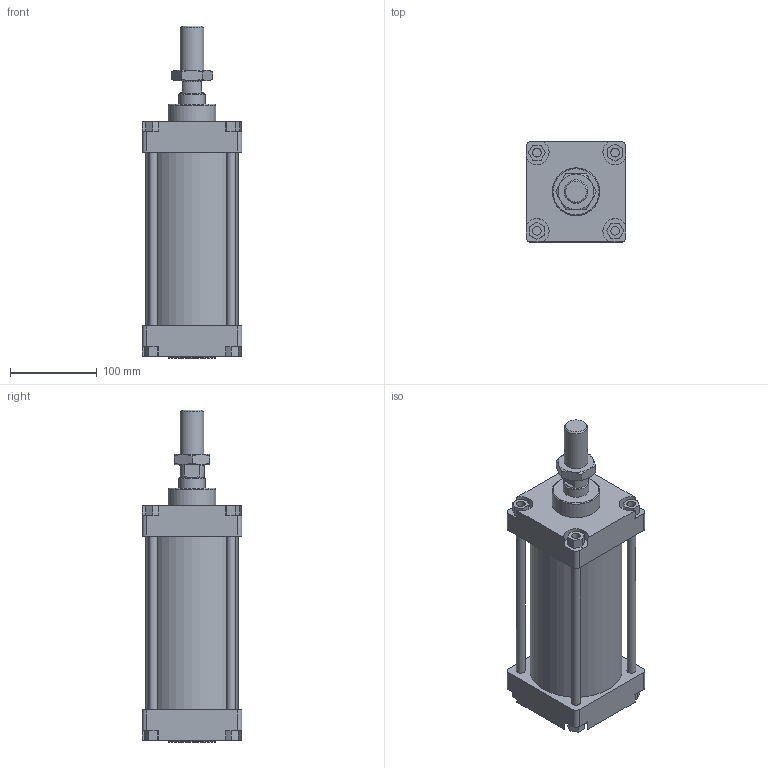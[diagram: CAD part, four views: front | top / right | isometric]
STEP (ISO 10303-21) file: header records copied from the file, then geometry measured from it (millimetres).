
FILE_DESCRIPTION(/* description */ (''),/* implementation_level */ '2;1');
FILE_NAME(/* name */ 'I:\Area Tecnica\Disegni\VARIE-3D\Componenti\CSP\Ø100\130#_100_####_###\1303_100_0125_01A.stp',/* time_stamp */ '2016-11-24T14:04:20+01:00',/* author */ ('Maniean1'),/* organization */ ('Pneumax S.p.A.'),/* preprocessor_version */ 'ST-DEVELOPER v15.2',/* originating_system */ 'Autodesk Inventor 2014',/* authorisation */ '');
FILE_SCHEMA (('AUTOMOTIVE_DESIGN { 1 0 10303 214 3 1 1 }'));
Length unit declared in the file: millimetre
Products named in the file (6): C_130#_100_0125; Testata anteriore_100; Testata posteriore_100; S_1303_100_0125_01A; 1300_100_18F; 1303_100_0125_01A
Bounding box: 115 x 115 x 382 mm (x, y, z)
Volume: 1883832.4 mm3; surface area: 337289.8 mm2
Topology: 9 solids, 9 shells, 162 faces, 380 edges, 249 vertices
Faces by surface type: plane 105, cylinder 42, cone 15
Full cylindrical faces by diameter (mm): 10 x12, 19 x2, 21.8 x1, 24.835 x1, 27 x1, 28 x1, 30 x3, 55 x2, 100 x2, 106 x1
Entity records: 4530 total; most frequent: CARTESIAN_POINT 785, DIRECTION 764, ORIENTED_EDGE 672, EDGE_CURVE 336, AXIS2_PLACEMENT_3D 271, VERTEX_POINT 244, EDGE_LOOP 236, LINE 222
